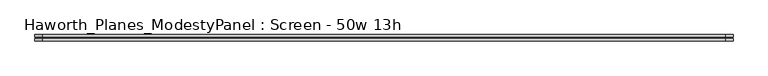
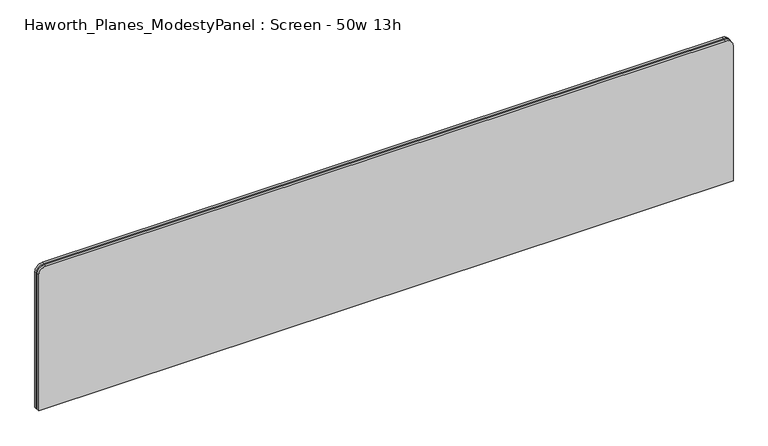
"""IFC4 building model written with IfcOpenShell, lengths in millimetres: furniture geometry, Haworth_Planes_ModestyPanel : Screen - 50w 13h."""

from ifc_helpers import new_model, si_unit, point, frame, frame_2d, origin, place, context, project, spatial, polyline, circle_curve, trimmed, segment, composite_curve, outline, extrude, source, transform, mapped, element, save


def haworth_planes_modestypanel_screen_50w_13h_a9739d11(model_context):
    return source(origin(), model_context, "Body", "SweptSolid", [
        extrude(outline(composite_curve([segment(polyline([(327.025, 958.85), (327.025, -527.05)]), True, "CONTINUOUS"), segment(trimmed(circle_curve(frame_2d((311.15, -527.05)), 15.875), [point((327.025, -527.05))], [point((311.15, -542.925))], False, "CARTESIAN"), True, "CONTINUOUS"), segment(polyline([(311.15, -542.925), (3.175, -542.925), (3.175, 974.725), (311.15, 974.725)]), True, "CONTINUOUS"), segment(trimmed(circle_curve(frame_2d((311.15, 958.85)), 15.875), [point((311.15, 974.725))], [point((327.025, 958.85))], False, "CARTESIAN"), True, "CONTINUOUS")], self_intersect=False)), frame((0.0, -201.3409766, 0.0), z_axis=(0.0, 1.0, 0.0), x_axis=(0.0, 0.0, 1.0)), (0.0, 0.0, 1.0), 3.175),
        extrude(outline(composite_curve([segment(polyline([(330.2, 962.025), (330.2, -530.225)]), True, "CONTINUOUS"), segment(trimmed(circle_curve(frame_2d((314.325, -530.225)), 15.875), [point((330.2, -530.225))], [point((314.325, -546.1))], False, "CARTESIAN"), True, "CONTINUOUS"), segment(polyline([(314.325, -546.1), (0.0, -546.1), (0.0, 977.9), (314.325, 977.9)]), True, "CONTINUOUS"), segment(trimmed(circle_curve(frame_2d((314.325, 962.025)), 15.875), [point((314.325, 977.9))], [point((330.2, 962.025))], False, "CARTESIAN"), True, "CONTINUOUS")], self_intersect=False)), frame((0.0, -198.1659766, 0.0), z_axis=(0.0, 1.0, 0.0), x_axis=(0.0, 0.0, 1.0)), (0.0, 0.0, 1.0), 5.55625),
        extrude(outline(composite_curve([segment(polyline([(330.2, 962.025), (330.2, -530.225)]), True, "CONTINUOUS"), segment(trimmed(circle_curve(frame_2d((314.325, -530.225)), 15.875), [point((330.2, -530.225))], [point((314.325, -546.1))], False, "CARTESIAN"), True, "CONTINUOUS"), segment(polyline([(314.325, -546.1), (0.0, -546.1), (0.0, 977.9), (314.325, 977.9)]), True, "CONTINUOUS"), segment(trimmed(circle_curve(frame_2d((314.325, 962.025)), 15.875), [point((314.325, 977.9))], [point((330.2, 962.025))], False, "CARTESIAN"), True, "CONTINUOUS")], self_intersect=False)), frame((0.0, -206.8972266, 0.0), z_axis=(0.0, 1.0, 0.0), x_axis=(0.0, 0.0, 1.0)), (0.0, 0.0, 1.0), 5.55625),
    ])


if __name__ == "__main__":
    model = new_model("IFC4")
    model_context = context("Model", 3, world=origin())
    ifc_project = project(units=[si_unit("LENGTHUNIT", "METRE", prefix="MILLI")], contexts=[model_context])
    site = spatial("IfcSite", under=ifc_project)
    building = spatial("IfcBuilding", under=site)
    placement = place(None, origin())
    haworth_planes_modestypanel_screen_50w_13h_shape = haworth_planes_modestypanel_screen_50w_13h_a9739d11(model_context)
    element("IfcFurniture", 1, ObjectType="Haworth_Planes_ModestyPanel : Screen - 50w 13h", at=placement, inside=building, context=model_context, shape_type="MappedRepresentation", body=[
        mapped(haworth_planes_modestypanel_screen_50w_13h_shape, transform((0.0, 0.0, 0.0), x_axis=(1.0, 0.0, 0.0), y_axis=(0.0, 1.0, 0.0), z_axis=(0.0, 0.0, 1.0))),
    ])
    save(model, "model.ifc")
